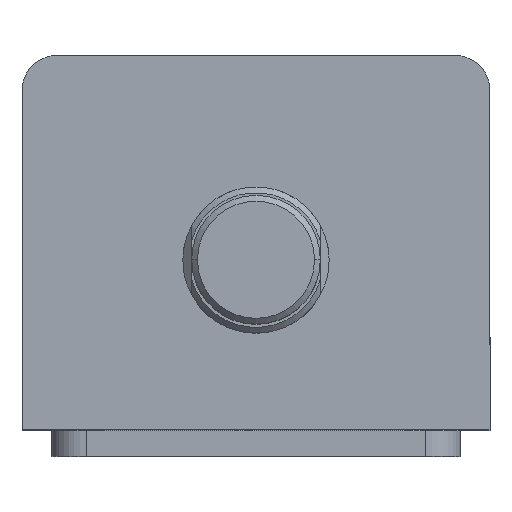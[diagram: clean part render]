
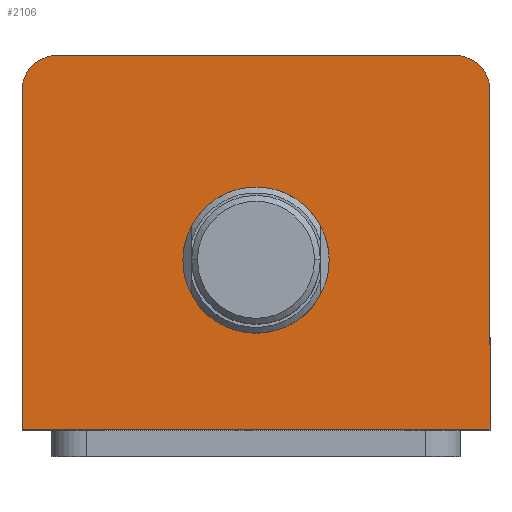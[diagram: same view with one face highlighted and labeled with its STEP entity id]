
A CAD part, top view. The second image highlights one B-rep face of the part: STEP entity #2106.
In plain terms, the highlighted planar face has unit normal (0, 0, 1).
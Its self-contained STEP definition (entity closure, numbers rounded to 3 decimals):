
#19 = AXIS2_PLACEMENT_3D ( 'NONE', #1196, #1194, #1192 ) ;
#134 = AXIS2_PLACEMENT_3D ( 'NONE', #1141, #1138, #1136 ) ;
#241 = DIRECTION ( 'NONE',  ( 1., 0., 0. ) ) ;
#243 = DIRECTION ( 'NONE',  ( 0., 0., 1. ) ) ;
#258 = PLANE ( 'NONE',  #2236 ) ;
#267 = CARTESIAN_POINT ( 'NONE',  ( 0., 0., 100. ) ) ;
#492 = FACE_BOUND ( 'NONE', #1888, .T. ) ;
#500 = FACE_OUTER_BOUND ( 'NONE', #1897, .T. ) ;
#963 = EDGE_CURVE ( 'NONE', #2331, #2298, #2601, .T. ) ;
#991 = EDGE_CURVE ( 'NONE', #2003, #2000, #2639, .T. ) ;
#1007 = EDGE_CURVE ( 'NONE', #2277, #2282, #2671, .T. ) ;
#1028 = EDGE_CURVE ( 'NONE', #2000, #2369, #2711, .T. ) ;
#1036 = EDGE_CURVE ( 'NONE', #2369, #2277, #2718, .T. ) ;
#1045 = EDGE_CURVE ( 'NONE', #2282, #1980, #2731, .T. ) ;
#1049 = EDGE_CURVE ( 'NONE', #1980, #2003, #2737, .T. ) ;
#1092 = EDGE_CURVE ( 'NONE', #2298, #2331, #2807, .T. ) ;
#1125 = DIRECTION ( 'NONE',  ( 0., -1., 0. ) ) ;
#1127 = CARTESIAN_POINT ( 'NONE',  ( -40., 32., 100. ) ) ;
#1136 = DIRECTION ( 'NONE',  ( 1., 0., 0. ) ) ;
#1138 = DIRECTION ( 'NONE',  ( 0., 0., 1. ) ) ;
#1141 = CARTESIAN_POINT ( 'NONE',  ( -34., 26., 100. ) ) ;
#1169 = DIRECTION ( 'NONE',  ( -1., 0., 0. ) ) ;
#1178 = CARTESIAN_POINT ( 'NONE',  ( -40., 32., 100. ) ) ;
#1179 = CARTESIAN_POINT ( 'NONE',  ( 0., -3., 100. ) ) ;
#1192 = DIRECTION ( 'NONE',  ( 1., 0., 0. ) ) ;
#1194 = DIRECTION ( 'NONE',  ( 0., 0., 1. ) ) ;
#1196 = CARTESIAN_POINT ( 'NONE',  ( 34., 26., 100. ) ) ;
#1258 = DIRECTION ( 'NONE',  ( 0., 1., 0. ) ) ;
#1261 = DIRECTION ( 'NONE',  ( 1., 0., 0. ) ) ;
#1267 = CARTESIAN_POINT ( 'NONE',  ( 40., 32., 100. ) ) ;
#1308 = CARTESIAN_POINT ( 'NONE',  ( -40., -32., 100. ) ) ;
#1342 = DIRECTION ( 'NONE',  ( 1., 0., 0. ) ) ;
#1410 = DIRECTION ( 'NONE',  ( 0., 0., 1. ) ) ;
#1888 = EDGE_LOOP ( 'NONE', ( #2474, #2473 ) ) ;
#1897 = EDGE_LOOP ( 'NONE', ( #2472, #2419, #2418, #2417, #2416, #2415 ) ) ;
#1980 = VERTEX_POINT ( 'NONE', #3576 ) ;
#2000 = VERTEX_POINT ( 'NONE', #3548 ) ;
#2003 = VERTEX_POINT ( 'NONE', #3543 ) ;
#2106 = ADVANCED_FACE ( 'NONE', ( #492, #500 ), #258, .T. ) ;
#2236 = AXIS2_PLACEMENT_3D ( 'NONE', #267, #243, #241 ) ;
#2277 = VERTEX_POINT ( 'NONE', #3135 ) ;
#2282 = VERTEX_POINT ( 'NONE', #3125 ) ;
#2298 = VERTEX_POINT ( 'NONE', #3341 ) ;
#2331 = VERTEX_POINT ( 'NONE', #3299 ) ;
#2369 = VERTEX_POINT ( 'NONE', #3251 ) ;
#2415 = ORIENTED_EDGE ( 'NONE', *, *, #1036, .T. ) ;
#2416 = ORIENTED_EDGE ( 'NONE', *, *, #1028, .T. ) ;
#2417 = ORIENTED_EDGE ( 'NONE', *, *, #991, .T. ) ;
#2418 = ORIENTED_EDGE ( 'NONE', *, *, #1049, .T. ) ;
#2419 = ORIENTED_EDGE ( 'NONE', *, *, #1045, .T. ) ;
#2472 = ORIENTED_EDGE ( 'NONE', *, *, #1007, .T. ) ;
#2473 = ORIENTED_EDGE ( 'NONE', *, *, #963, .F. ) ;
#2474 = ORIENTED_EDGE ( 'NONE', *, *, #1092, .F. ) ;
#2601 = CIRCLE ( 'NONE', #3737, 12.5 ) ;
#2639 = LINE ( 'NONE', #1308, #2646 ) ;
#2646 = VECTOR ( 'NONE', #1342, 1000. ) ;
#2671 = LINE ( 'NONE', #1178, #2674 ) ;
#2674 = VECTOR ( 'NONE', #1169, 1000. ) ;
#2711 = LINE ( 'NONE', #1267, #2714 ) ;
#2714 = VECTOR ( 'NONE', #1258, 1000. ) ;
#2718 = CIRCLE ( 'NONE', #19, 6. ) ;
#2731 = CIRCLE ( 'NONE', #134, 6. ) ;
#2737 = LINE ( 'NONE', #1127, #2740 ) ;
#2740 = VECTOR ( 'NONE', #1125, 1000. ) ;
#2807 = CIRCLE ( 'NONE', #2851, 12.5 ) ;
#2851 = AXIS2_PLACEMENT_3D ( 'NONE', #3687, #3685, #3684 ) ;
#3125 = CARTESIAN_POINT ( 'NONE',  ( -34., 32., 100. ) ) ;
#3135 = CARTESIAN_POINT ( 'NONE',  ( 34., 32., 100. ) ) ;
#3251 = CARTESIAN_POINT ( 'NONE',  ( 40., 26., 100. ) ) ;
#3299 = CARTESIAN_POINT ( 'NONE',  ( -12.5, -3., 100. ) ) ;
#3341 = CARTESIAN_POINT ( 'NONE',  ( 12.5, -3., 100. ) ) ;
#3543 = CARTESIAN_POINT ( 'NONE',  ( -40., -32., 100. ) ) ;
#3548 = CARTESIAN_POINT ( 'NONE',  ( 40., -32., 100. ) ) ;
#3576 = CARTESIAN_POINT ( 'NONE',  ( -40., 26., 100. ) ) ;
#3684 = DIRECTION ( 'NONE',  ( 1., 0., 0. ) ) ;
#3685 = DIRECTION ( 'NONE',  ( 0., 0., 1. ) ) ;
#3687 = CARTESIAN_POINT ( 'NONE',  ( 0., -3., 100. ) ) ;
#3737 = AXIS2_PLACEMENT_3D ( 'NONE', #1179, #1410, #1261 ) ;
